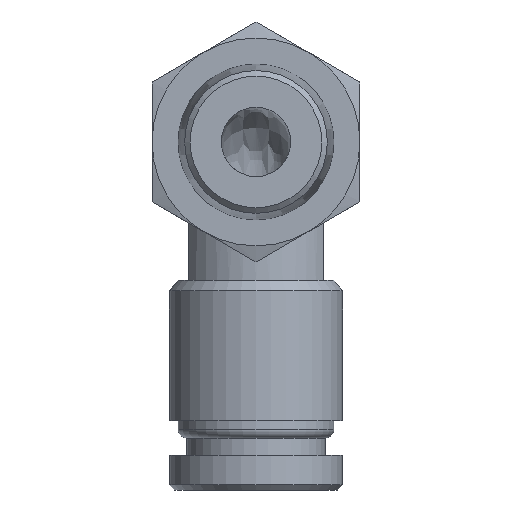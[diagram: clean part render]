
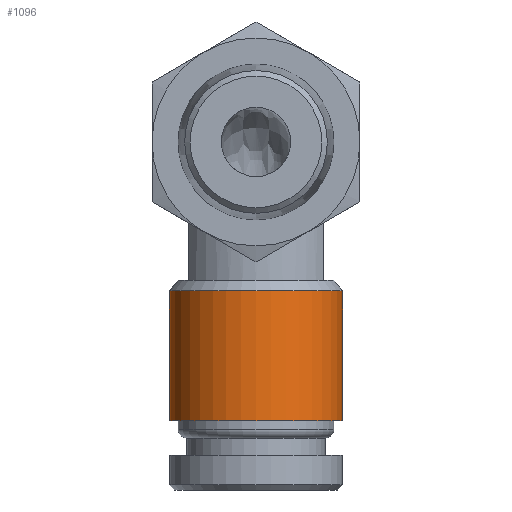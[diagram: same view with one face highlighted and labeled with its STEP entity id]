
A CAD part, front view. The second image highlights one B-rep face of the part: STEP entity #1096.
In plain terms, the highlighted cylindrical face has radius 5 mm (diameter 10 mm), a full revolution.
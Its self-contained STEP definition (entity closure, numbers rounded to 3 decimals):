
#78=CYLINDRICAL_SURFACE('',#1240,5.);
#141=FACE_OUTER_BOUND('',#216,.T.);
#216=EDGE_LOOP('',(#957,#958,#959,#960));
#277=CIRCLE('',#1233,5.);
#280=CIRCLE('',#1239,5.);
#350=LINE('',#1924,#422);
#422=VECTOR('',#1543,5.);
#521=VERTEX_POINT('',#1911);
#523=VERTEX_POINT('',#1921);
#667=EDGE_CURVE('',#521,#521,#277,.T.);
#671=EDGE_CURVE('',#523,#523,#280,.T.);
#672=EDGE_CURVE('',#521,#523,#350,.T.);
#957=ORIENTED_EDGE('',*,*,#667,.F.);
#958=ORIENTED_EDGE('',*,*,#672,.T.);
#959=ORIENTED_EDGE('',*,*,#671,.T.);
#960=ORIENTED_EDGE('',*,*,#672,.F.);
#1096=ADVANCED_FACE('',(#141),#78,.T.);
#1233=AXIS2_PLACEMENT_3D('',#1913,#1526,#1527);
#1239=AXIS2_PLACEMENT_3D('',#1922,#1539,#1540);
#1240=AXIS2_PLACEMENT_3D('',#1923,#1541,#1542);
#1526=DIRECTION('center_axis',(0.,0.,1.));
#1527=DIRECTION('ref_axis',(1.,0.,0.));
#1539=DIRECTION('center_axis',(0.,0.,1.));
#1540=DIRECTION('ref_axis',(1.,0.,0.));
#1541=DIRECTION('center_axis',(0.,0.,1.));
#1542=DIRECTION('ref_axis',(0.,-1.,0.));
#1543=DIRECTION('',(0.,0.,-1.));
#1911=CARTESIAN_POINT('',(0.,15.7,-8.6));
#1913=CARTESIAN_POINT('Origin',(0.,10.7,-8.6));
#1921=CARTESIAN_POINT('',(0.,15.7,-16.1));
#1922=CARTESIAN_POINT('Origin',(0.,10.7,-16.1));
#1923=CARTESIAN_POINT('Origin',(0.,10.7,-12.35));
#1924=CARTESIAN_POINT('',(0.,15.7,-12.35));
